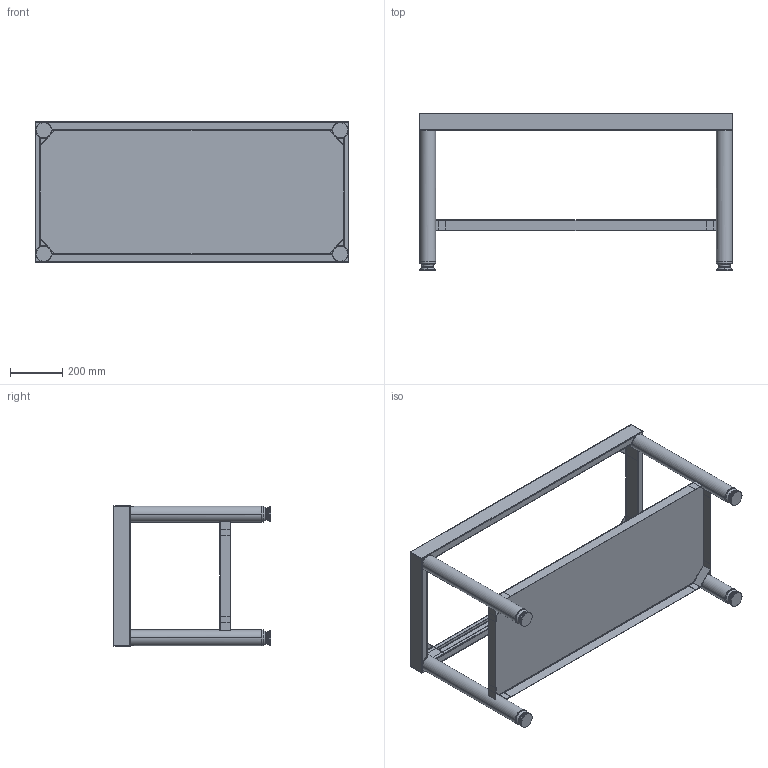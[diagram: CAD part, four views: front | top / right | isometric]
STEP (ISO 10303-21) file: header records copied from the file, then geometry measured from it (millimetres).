
FILE_DESCRIPTION((''),'2;1');
FILE_NAME('SSK1200_EXPORT_STEP','2017-11-23T',('r.avril'),(''),'PRO/ENGINEER BY PARAMETRIC TECHNOLOGY CORPORATION, 2014200','PRO/ENGINEER BY PARAMETRIC TECHNOLOGY CORPORATION, 2014200','');
FILE_SCHEMA(('AP203_CONFIGURATION_CONTROLLED_3D_DESIGN_OF_MECHANICAL_PARTS_AND_ASSEMBLIES_MIM_LF { 1 0 10303 403 2 1 2 }'));
Length unit declared in the file: millimetre
Products named in the file (1): SSK1200_EXPORT_STEP
Bounding box: 1195 x 600 x 535 mm (x, y, z)
Volume: 2642262.6 mm3; surface area: 3387693.6 mm2
Topology: 14 solids, 14 shells, 367 faces, 912 edges, 568 vertices
Faces by surface type: plane 231, cylinder 88, torus 24, cone 16, sphere 8
Entity records: 11956 total; most frequent: CARTESIAN_POINT 2111, DIRECTION 1897, ORIENTED_EDGE 1824, EDGE_CURVE 912, AXIS2_PLACEMENT_3D 659, VECTOR 576, LINE 576, VERTEX_POINT 568
